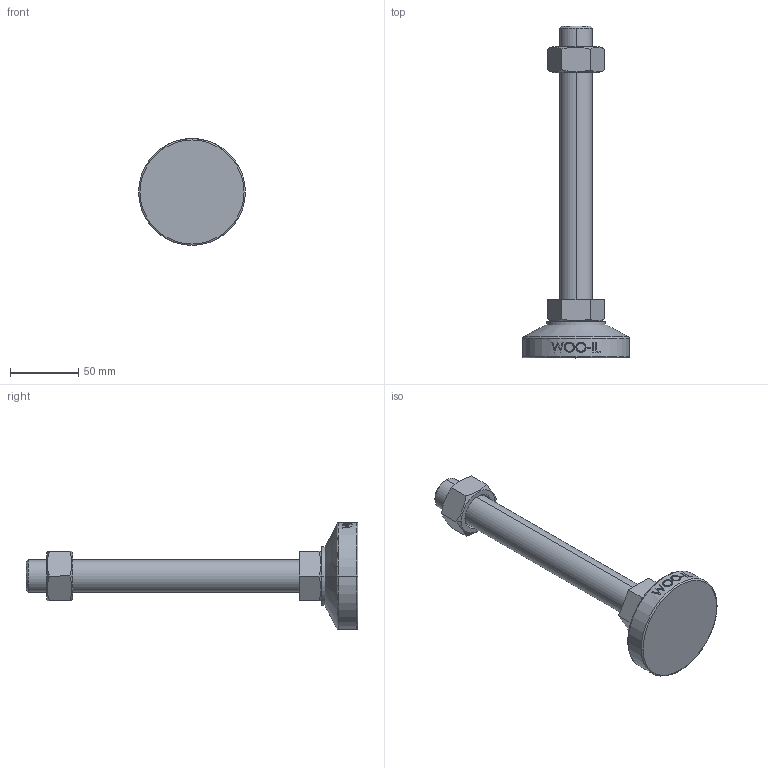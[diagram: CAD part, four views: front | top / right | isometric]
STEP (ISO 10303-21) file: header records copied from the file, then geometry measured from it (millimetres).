
FILE_DESCRIPTION (( 'STEP AP214' ), '1' );
FILE_NAME ('MFB78-M24-200.step', '2022-06-27T08:35:44', ( '' ), ( '' ), 'SwSTEP 2.0', 'SolidWorks 2019', '' );
FILE_SCHEMA (( 'AUTOMOTIVE_DESIGN' ));
Length unit declared in the file: millimetre
Products named in the file (1): MFB78-M24-200
Bounding box: 78 x 242.5 x 78 mm (x, y, z)
Volume: 223181.3 mm3; surface area: 37904.8 mm2
Topology: 3 solids, 3 shells, 97 faces, 225 edges, 144 vertices
Faces by surface type: plane 47, cylinder 16, bspline 16, cone 14, torus 4
Entity records: 4305 total; most frequent: CARTESIAN_POINT 2175, ORIENTED_EDGE 450, DIRECTION 385, EDGE_CURVE 225, AXIS2_PLACEMENT_3D 144, VERTEX_POINT 144, EDGE_LOOP 109, ADVANCED_FACE 97
